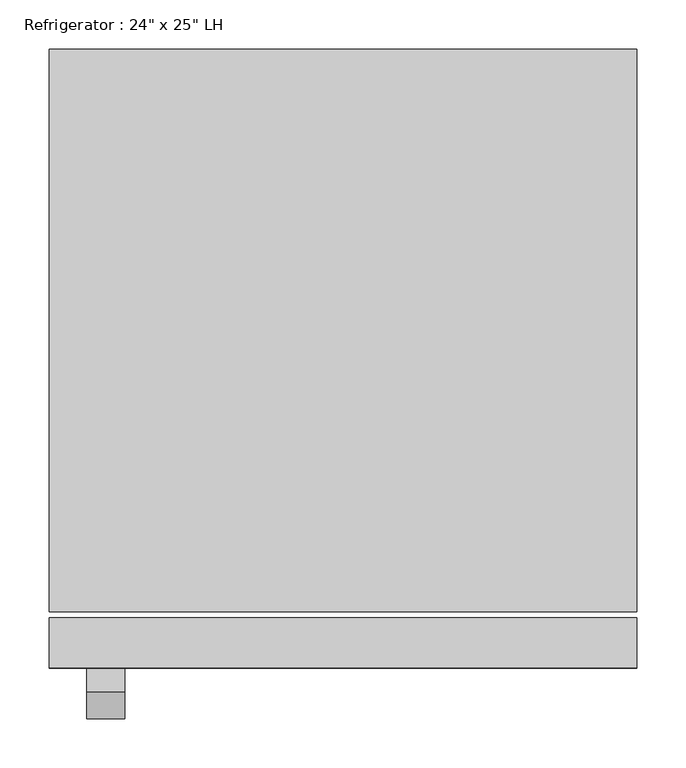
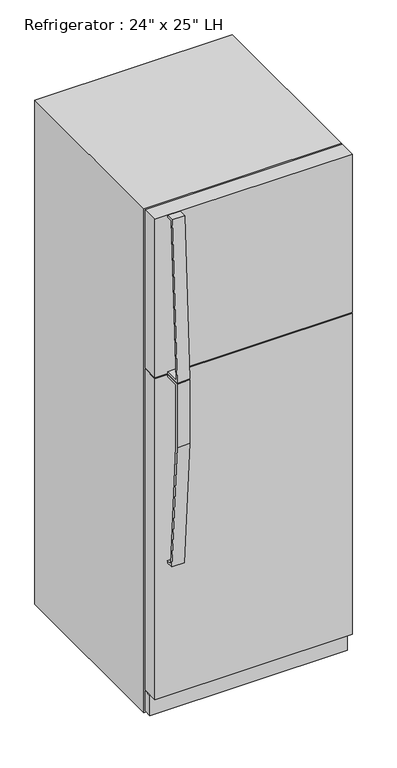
"""IFC4 building model written with IfcOpenShell, lengths in millimetres: proxy geometry."""

from ifc_helpers import new_model, si_unit, frame, origin, origin_with_axes, place, context, project, spatial, polyline, outline, extrude, source, transform, mapped, element, save


def proxy_c523a7b7(model_context):
    return source(origin(), model_context, "Body", "SweptSolid", [
        extrude(outline(polyline([(-329.0010285, 1096.9625), (-373.4510285, 1096.9625), (-373.4510285, 900.3342469), (-345.9723987, 507.3715334), (-329.0010285, 507.3715334), (-329.0010285, 501.0370017), (-351.8949512, 501.0370017), (-379.8010285, 900.1125), (-379.8010285, 1103.3125), (-329.0010285, 1103.3125), (-329.0010285, 1096.9625)])), frame((-260.35, 0.0, 0.0), z_axis=(1.0, 0.0, 0.0), x_axis=(0.0, 1.0, 0.0)), (0.0, 0.0, 1.0), 38.4332978),
        extrude(outline(polyline([(-353.839413, 1612.9), (-329.7780855, 1612.9), (-329.7780855, 1606.55), (-348.6263449, 1606.55), (-374.5007207, 1112.8375), (-329.7780855, 1112.8375), (-329.7780855, 1106.4875), (-380.3793675, 1106.4875), (-353.839413, 1612.9)])), frame((-260.35, 0.0, 0.0), z_axis=(1.0, 0.0, 0.0), x_axis=(0.0, 1.0, 0.0)), (0.0, 0.0, 1.0), 38.4332978),
        extrude(outline(polyline([(298.45, -278.2010285), (298.45, -303.6010285), (-298.45, -303.6010285), (-298.45, -278.2010285), (298.45, -278.2010285)])), frame((0.0, 0.0, 9.3816357), z_axis=(0.0, 0.0, 1.0), x_axis=(1.0, 0.0, 0.0)), (0.0, 0.0, 1.0), 63.5),
        extrude(outline(polyline([(298.45, -278.2010285), (298.45, -329.0010285), (-298.45, -329.0010285), (-298.45, -278.2010285), (298.45, -278.2010285)])), frame((0.0, 0.0, 76.2), z_axis=(0.0, 0.0, 1.0), x_axis=(1.0, 0.0, 0.0)), (0.0, 0.0, 1.0), 1027.1125),
        extrude(outline(polyline([(298.45, -278.2010285), (298.45, -329.0010285), (-298.45, -329.0010285), (-298.45, -278.2010285), (298.45, -278.2010285)])), frame((0.0, 0.0, 1106.4875), z_axis=(0.0, 0.0, 1.0), x_axis=(1.0, 0.0, 0.0)), (0.0, 0.0, 1.0), 506.4125),
        extrude(outline(polyline([(298.45, 299.6489715), (298.45, -271.8510285), (-298.45, -271.8510285), (-298.45, 299.6489715), (298.45, 299.6489715)])), origin_with_axes(), (0.0, 0.0, 1.0), 1612.9),
    ])


if __name__ == "__main__":
    model = new_model("IFC4")
    model_context = context("Model", 3, world=origin())
    ifc_project = project(units=[si_unit("LENGTHUNIT", "METRE", prefix="MILLI")], contexts=[model_context])
    site = spatial("IfcSite", under=ifc_project)
    building = spatial("IfcBuilding", under=site)
    placement = place(None, origin())
    proxy_shape = proxy_c523a7b7(model_context)
    element("IfcBuildingElementProxy", 1, Name="Refrigerator : 24\" x 25\" LH", ObjectType="Refrigerator : 24\" x 25\" LH", at=placement, inside=building, context=model_context, shape_type="MappedRepresentation", body=[
        mapped(proxy_shape, transform((0.0, 0.0, 0.0), x_axis=(1.0, 0.0, 0.0), y_axis=(0.0, 1.0, 0.0), z_axis=(0.0, 0.0, 1.0))),
    ])
    save(model, "model.ifc")
